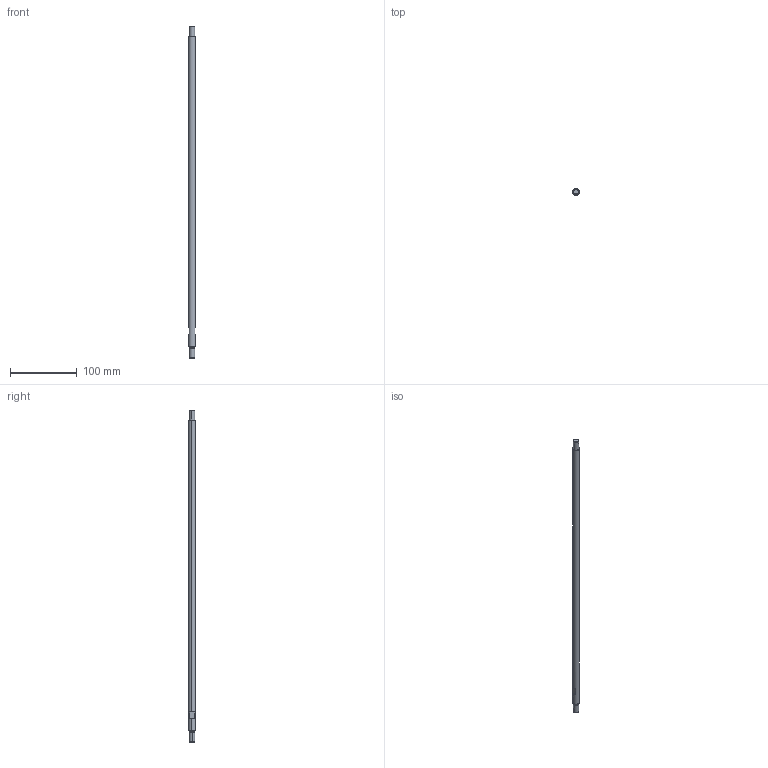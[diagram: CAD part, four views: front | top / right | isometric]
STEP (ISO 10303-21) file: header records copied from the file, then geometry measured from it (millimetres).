
FILE_DESCRIPTION (( 'STEP AP203' ), '1' );
FILE_NAME ('ÞÊØÆ.715154.119 - Îñü.STEP', '2025-03-26T14:08:58', ( 'User' ), ( '' ), 'SwSTEP 2.0', 'SolidWorks 2022', '' );
FILE_SCHEMA (( 'CONFIG_CONTROL_DESIGN' ));
Length unit declared in the file: millimetre
Products named in the file (1): ЮКШЖ.715154.119 - Ось
Bounding box: 10 x 10 x 497 mm (x, y, z)
Volume: 37997.1 mm3; surface area: 15576.2 mm2
Topology: 1 solids, 1 shells, 29 faces, 62 edges, 38 vertices
Faces by surface type: plane 11, cylinder 10, cone 4, torus 4
Entity records: 871 total; most frequent: DIRECTION 160, CARTESIAN_POINT 130, ORIENTED_EDGE 124, AXIS2_PLACEMENT_3D 68, EDGE_CURVE 62, VERTEX_POINT 38, CIRCLE 38, EDGE_LOOP 32
